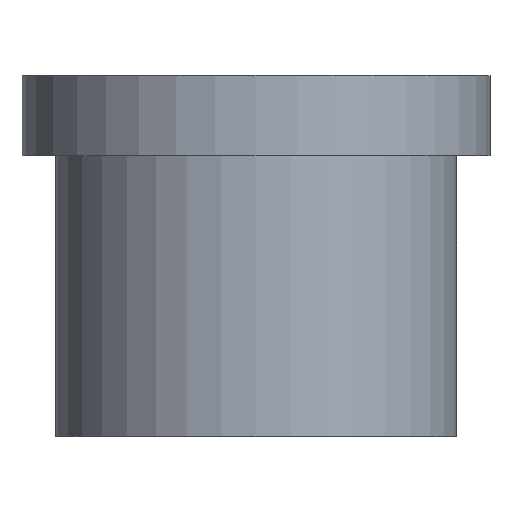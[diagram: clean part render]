
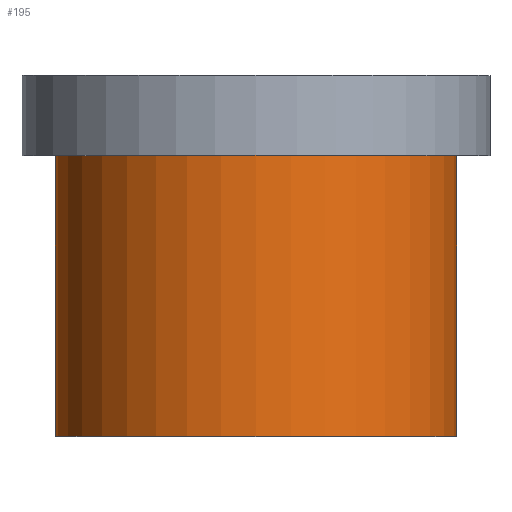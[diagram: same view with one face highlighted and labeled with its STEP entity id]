
A CAD part, top view. The second image highlights one B-rep face of the part: STEP entity #195.
In plain terms, the highlighted cylindrical face has radius 15 mm (diameter 30 mm), a full revolution.
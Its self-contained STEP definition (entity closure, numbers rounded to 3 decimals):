
#32=ORIENTED_EDGE('',*,*,#50,.T.);
#33=ORIENTED_EDGE('',*,*,#49,.F.);
#49=EDGE_CURVE('',#59,#59,#69,.T.);
#50=EDGE_CURVE('',#60,#60,#70,.T.);
#59=VERTEX_POINT('',#280);
#60=VERTEX_POINT('',#283);
#69=CIRCLE('',#213,15.);
#70=CIRCLE('',#215,15.);
#82=EDGE_LOOP('',(#32));
#83=EDGE_LOOP('',(#33));
#102=FACE_BOUND('',#82,.T.);
#103=FACE_BOUND('',#83,.T.);
#117=CYLINDRICAL_SURFACE('',#214,15.);
#195=ADVANCED_FACE('',(#102,#103),#117,.T.);
#213=AXIS2_PLACEMENT_3D('',#279,#241,#242);
#214=AXIS2_PLACEMENT_3D('',#281,#243,#244);
#215=AXIS2_PLACEMENT_3D('',#282,#245,#246);
#241=DIRECTION('',(0.,-1.,0.));
#242=DIRECTION('',(0.,0.,-1.));
#243=DIRECTION('',(0.,-1.,0.));
#244=DIRECTION('',(0.,0.,-1.));
#245=DIRECTION('',(0.,-1.,0.));
#246=DIRECTION('',(0.,0.,-1.));
#279=CARTESIAN_POINT('',(0.,0.,0.));
#280=CARTESIAN_POINT('',(0.,0.,-15.));
#281=CARTESIAN_POINT('',(0.,0.,0.));
#282=CARTESIAN_POINT('',(0.,21.,0.));
#283=CARTESIAN_POINT('',(0.,21.,-15.));
